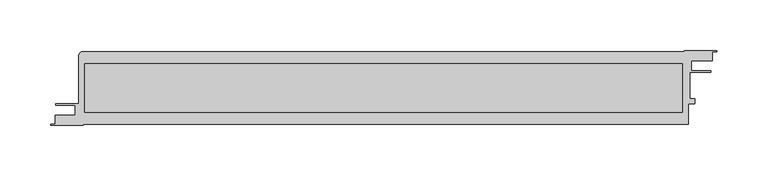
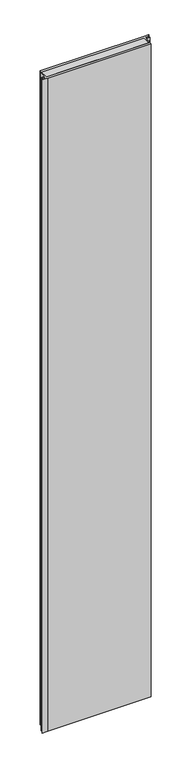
"""IFC4 building model written with IfcOpenShell, lengths in millimetres: plate geometry, Walls_External-Walls_Danpal_Danpatherm-K7-with-NM-Frame : Walls_External-Walls_Danpal_Danpatherm-K7-with-NM-Frame."""

from ifc_helpers import new_model, si_unit, point, frame, frame_2d, origin, place, context, project, spatial, polyline, circle_curve, trimmed, segment, composite_curve, outline, extrude, source, transform, mapped, element, save


def plate_1471c6be(model_context):
    return source(origin(), model_context, "Body", "SweptSolid", [
        extrude(outline(polyline([(279.3176513, 12.7999917), (-309.4036211, 12.7999917), (-309.4036211, 60.3432727), (279.3176513, 60.3432727), (279.3176513, 12.7999917)])), frame((0.0, 0.0, -22.0), z_axis=(0.0, 0.0, 1.0), x_axis=(1.0, 0.0, 0.0)), (0.0, 0.0, 1.0), 3970.063098),
        extrude(outline(composite_curve([segment(polyline([(307.1570352, 53.4717617), (307.1570352, 52.1717185), (286.2570144, 52.1717185), (286.2570144, 26.0716456), (291.2570149, 26.0716456), (291.2570149, 20.9715623), (284.9570149, 20.9715623), (284.9570149, 0.8), (-310.7429914, 0.8), (-310.7429914, 0.0), (-342.6429914, 0.0), (-342.6429914, 0.8), (-338.4429914, 0.8), (-338.4429914, 9.7656785), (-318.6132316, 9.7656785), (-318.6132316, 19.6715177), (-337.5693772, 19.6715177), (-337.5693772, 20.9715623), (-315.0, 20.9715623), (-315.0, 68.5003761)]), True, "CONTINUOUS"), segment(trimmed(circle_curve(frame_2d((-311.1570911, 68.5003761)), 3.8429089), [point((-315.0, 68.5003761))], [point((-311.1570911, 72.343285))], False, "CARTESIAN"), True, "CONTINUOUS"), segment(polyline([(-311.1570911, 72.343285), (281.0568579, 72.343285), (281.0568579, 73.143285), (312.9568579, 73.143285), (312.9568579, 72.343285), (308.6568579, 72.343285), (308.6568579, 63.4717658), (287.7588048, 63.4717658), (287.7588048, 53.4717617), (307.1570352, 53.4717617)]), True, "CONTINUOUS")], self_intersect=False), holes=[polyline([(279.3176513, 12.7999917), (279.3176513, 60.3432727), (-309.4036211, 60.3432727), (-309.4036211, 12.7999917), (279.3176513, 12.7999917)])]), frame((0.0, 0.0, -22.0), z_axis=(0.0, 0.0, 1.0), x_axis=(1.0, 0.0, 0.0)), (0.0, 0.0, 1.0), 3970.063098),
    ])


if __name__ == "__main__":
    model = new_model("IFC4")
    model_context = context("Model", 3, world=origin())
    ifc_project = project(units=[si_unit("LENGTHUNIT", "METRE", prefix="MILLI")], contexts=[model_context])
    site = spatial("IfcSite", under=ifc_project)
    building = spatial("IfcBuilding", under=site)
    placement = place(None, origin())
    plate_shape = plate_1471c6be(model_context)
    element("IfcPlate", 1, ObjectType="Walls_External-Walls_Danpal_Danpatherm-K7-with-NM-Frame : Walls_External-Walls_Danpal_Danpatherm-K7-with-NM-Frame", at=placement, inside=building, context=model_context, shape_type="MappedRepresentation", body=[
        mapped(plate_shape, transform((0.0, 0.0, 0.0), x_axis=(1.0, 0.0, 0.0), y_axis=(0.0, 1.0, 0.0), z_axis=(0.0, 0.0, 1.0))),
    ])
    save(model, "model.ifc")
